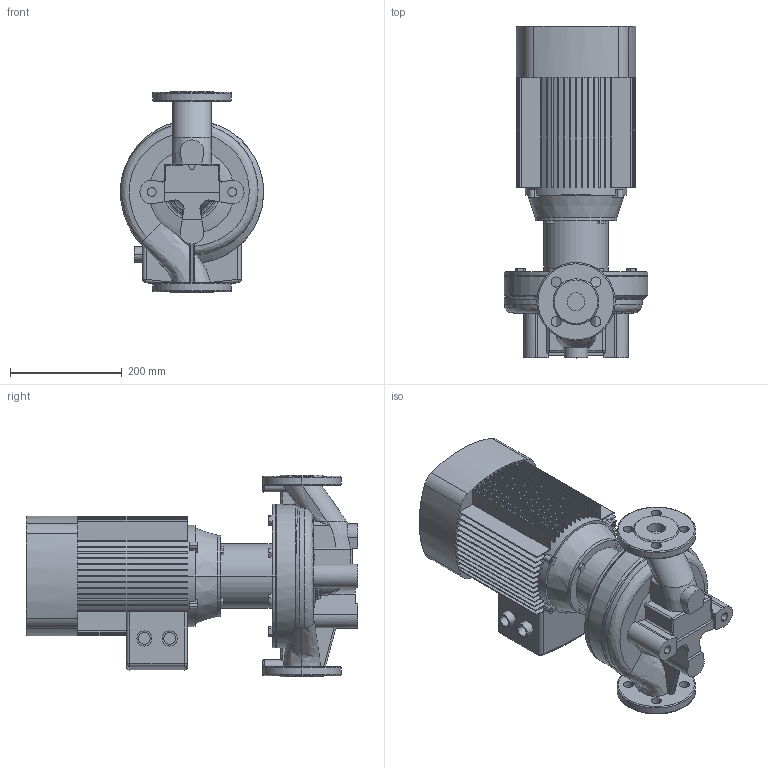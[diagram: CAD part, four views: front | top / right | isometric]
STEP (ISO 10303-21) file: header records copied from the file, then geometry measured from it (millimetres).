
FILE_DESCRIPTION (( 'STEP AP203' ), '1' );
FILE_NAME ('TD32-40G_2.STEP', '2022-05-02T13:25:52', ( '' ), ( '' ), 'SwSTEP 2.0', 'SolidWorks 2019', '' );
FILE_SCHEMA (( 'CONFIG_CONTROL_DESIGN' ));
Length unit declared in the file: millimetre
Products named in the file (4): TD32-40G_2; ED_B14_YE2-112M-2 (4); Pr_ch 32_TD32-40G_2; Fon_32_TD32-40G_2
Assembly tree (3 placements, depth 2):
  TD32-40G_2
    Pr_ch 32_TD32-40G_2
    Fon_32_TD32-40G_2
    ED_B14_YE2-112M-2 (4)
Bounding box: 256 x 593 x 360 mm (x, y, z)
Volume: 17723146.7 mm3; surface area: 1217054.3 mm2
Topology: 3 solids, 4 shells, 646 faces, 1750 edges, 1141 vertices
Faces by surface type: plane 392, cylinder 167, bspline 34, torus 30, sphere 12, cone 11
Entity records: 26737 total; most frequent: CARTESIAN_POINT 10025, ORIENTED_EDGE 3476, DIRECTION 3389, EDGE_CURVE 1738, AXIS2_PLACEMENT_3D 1216, VERTEX_POINT 1135, VECTOR 957, LINE 957
